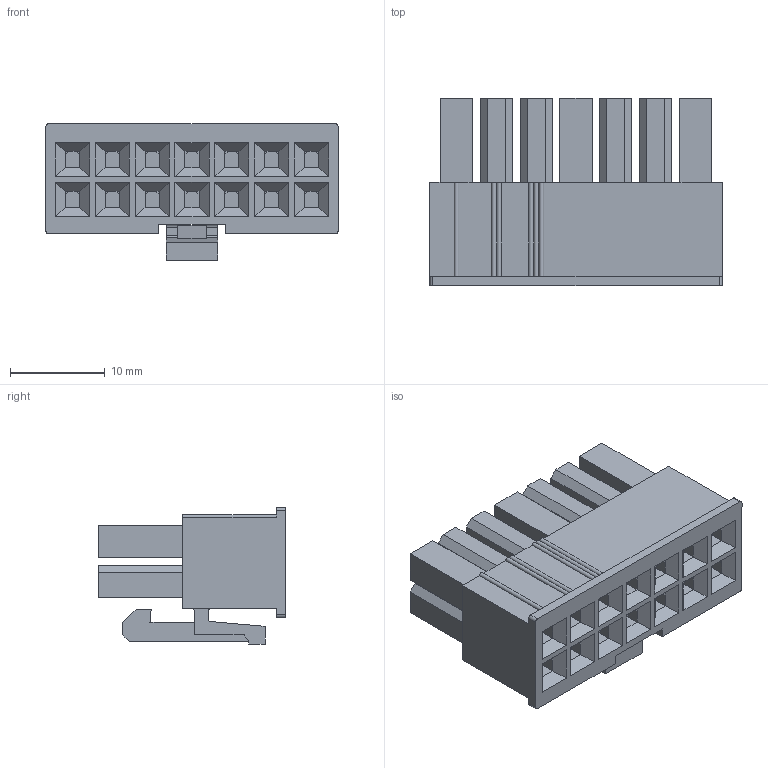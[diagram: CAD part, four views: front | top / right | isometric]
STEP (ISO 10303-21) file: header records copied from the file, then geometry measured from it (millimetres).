
FILE_DESCRIPTION (( 'STEP AP214' ), '1' );
FILE_NAME ('4973-14MHB-V0.STEP', '2016-08-23T08:37:35', ( 'admin' ), ( '' ), 'SwSTEP 2.0', 'SolidWorks 2011', '' );
FILE_SCHEMA (( 'AUTOMOTIVE_DESIGN' ));
Length unit declared in the file: millimetre
Products named in the file (2): 4973-14MHB-V0; h_Default
Assembly tree (1 placements, depth 2):
  4973-14MHB-V0
    h_Default
Bounding box: 30.8 x 19.8 x 14.4 mm (x, y, z)
Volume: 4032.5 mm3; surface area: 5215.4 mm2
Topology: 1 solids, 1 shells, 677 faces, 1811 edges, 1178 vertices
Faces by surface type: plane 661, cylinder 16
Entity records: 20643 total; most frequent: CARTESIAN_POINT 3670, ORIENTED_EDGE 3622, DIRECTION 3205, EDGE_CURVE 1811, LINE 1779, VECTOR 1779, VERTEX_POINT 1178, EDGE_LOOP 721
